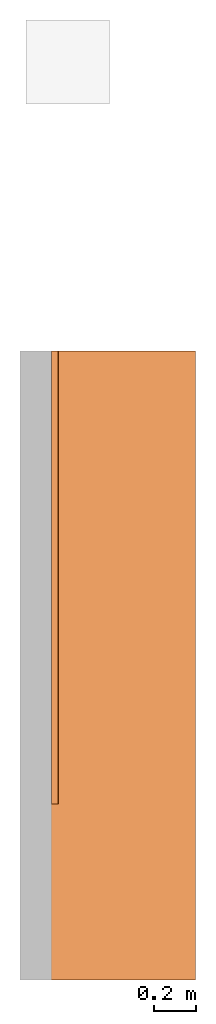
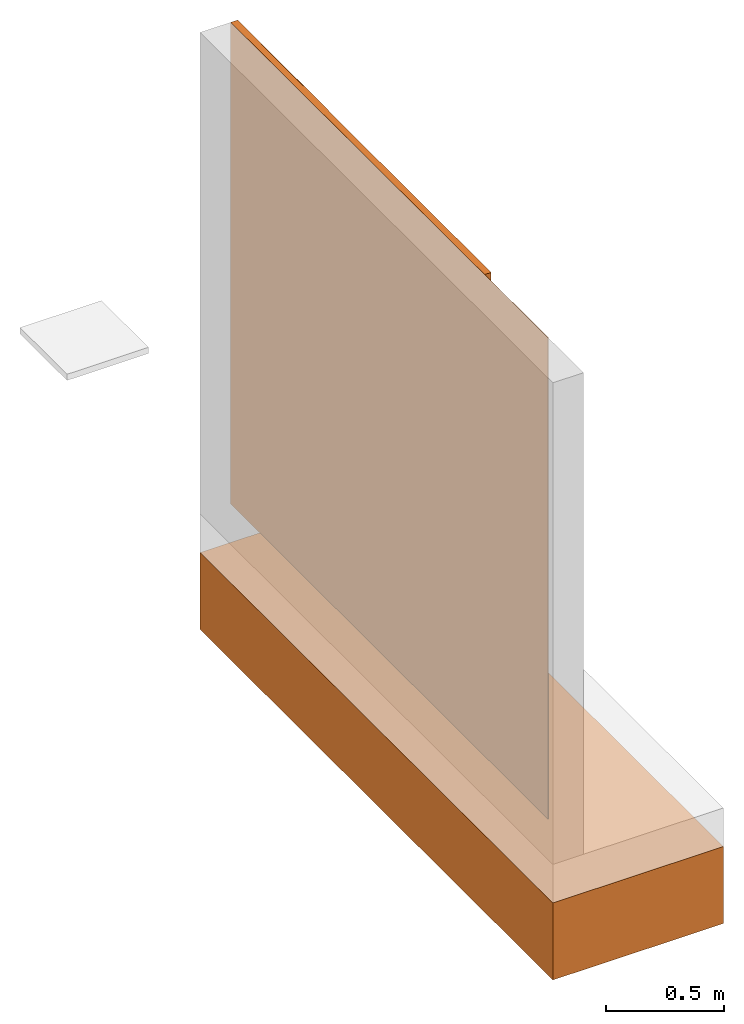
# One storey, part 2 of 2: 1 proxy.
"""IFC2X3 building model written with IfcOpenShell, lengths in metres."""

from ifc_helpers import new_model, entity, si_unit, converted_unit, derived_unit, direction, frame, frame_2d, origin, origin_2d_with_axis, place, context, subcontext, project, spatial, rectangle, extrude, source, transform, mapped, material, material_list, type_object, type_shapes, element, save


model = new_model("IFC2X3")

# Units and contexts
model_context = context("Model", 3, precision=1e-05, world=origin(), true_north=direction((6.123031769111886e-17, 1.0)))
body_context = subcontext(model_context, "Body", "Model", "MODEL_VIEW")
ifc_project = project(units=[si_unit("LENGTHUNIT", "METRE"), si_unit("AREAUNIT", "SQUARE_METRE"), si_unit("VOLUMEUNIT", "CUBIC_METRE"), converted_unit("PLANEANGLEUNIT", "DEGREE", entity("IfcRatioMeasure", 0.017453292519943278), si_unit("PLANEANGLEUNIT", "RADIAN"), dimensions=[0, 0, 0, 0, 0, 0, 0]), si_unit("MASSUNIT", "GRAM", prefix="KILO"), derived_unit("MASSDENSITYUNIT", [(si_unit("MASSUNIT", "GRAM", prefix="KILO"), 1), (si_unit("LENGTHUNIT", "METRE"), -3)]), derived_unit("IONCONCENTRATIONUNIT", [(si_unit("MASSUNIT", "GRAM", prefix="KILO"), 1), (si_unit("LENGTHUNIT", "METRE"), -3)]), derived_unit("MOMENTOFINERTIAUNIT", [(si_unit("LENGTHUNIT", "METRE"), 4)]), si_unit("TIMEUNIT", "SECOND"), si_unit("FREQUENCYUNIT", "HERTZ"), si_unit("THERMODYNAMICTEMPERATUREUNIT", "DEGREE_CELSIUS"), derived_unit("THERMALTRANSMITTANCEUNIT", [(si_unit("MASSUNIT", "GRAM", prefix="KILO"), 1), (si_unit("THERMODYNAMICTEMPERATUREUNIT", "KELVIN"), -1), (si_unit("TIMEUNIT", "SECOND"), -3)]), derived_unit("THERMALCONDUCTANCEUNIT", [(si_unit("MASSUNIT", "GRAM", prefix="KILO"), 1), (si_unit("THERMODYNAMICTEMPERATUREUNIT", "KELVIN"), -1), (si_unit("TIMEUNIT", "SECOND"), -3), (si_unit("LENGTHUNIT", "METRE"), 1)]), derived_unit("VOLUMETRICFLOWRATEUNIT", [(si_unit("LENGTHUNIT", "METRE"), 3), (si_unit("TIMEUNIT", "SECOND"), -1)]), derived_unit("MASSFLOWRATEUNIT", [(si_unit("MASSUNIT", "GRAM", prefix="KILO"), 1), (si_unit("TIMEUNIT", "SECOND"), -1)]), derived_unit("ROTATIONALFREQUENCYUNIT", [(si_unit("TIMEUNIT", "SECOND"), -1)]), si_unit("ELECTRICCURRENTUNIT", "AMPERE"), si_unit("ELECTRICVOLTAGEUNIT", "VOLT"), si_unit("POWERUNIT", "WATT"), si_unit("FORCEUNIT", "NEWTON", prefix="KILO"), si_unit("ILLUMINANCEUNIT", "LUX"), si_unit("LUMINOUSFLUXUNIT", "LUMEN"), si_unit("LUMINOUSINTENSITYUNIT", "CANDELA"), derived_unit("USERDEFINED", [(si_unit("MASSUNIT", "GRAM", prefix="KILO"), -1), (si_unit("LENGTHUNIT", "METRE"), -2), (si_unit("TIMEUNIT", "SECOND"), 3), (si_unit("LUMINOUSFLUXUNIT", "LUMEN"), 1)]), derived_unit("USERDEFINED", [(si_unit("MASSUNIT", "GRAM", prefix="KILO"), 1), (si_unit("TIMEUNIT", "SECOND"), -3), (si_unit("LENGTHUNIT", "METRE"), 3), (si_unit("ELECTRICCURRENTUNIT", "AMPERE"), -2)]), derived_unit("SOUNDPOWERUNIT", [(si_unit("MASSUNIT", "GRAM", prefix="KILO"), 1), (si_unit("TIMEUNIT", "SECOND"), -3), (si_unit("LENGTHUNIT", "METRE"), 2)]), derived_unit("SOUNDPRESSUREUNIT", [(si_unit("MASSUNIT", "GRAM", prefix="KILO"), 1), (si_unit("LENGTHUNIT", "METRE"), -1), (si_unit("TIMEUNIT", "SECOND"), -2)]), derived_unit("LINEARVELOCITYUNIT", [(si_unit("LENGTHUNIT", "METRE"), 1), (si_unit("TIMEUNIT", "SECOND"), -1)]), si_unit("PRESSUREUNIT", "PASCAL"), derived_unit("USERDEFINED", [(si_unit("MASSUNIT", "GRAM", prefix="KILO"), 1), (si_unit("LENGTHUNIT", "METRE"), -2), (si_unit("TIMEUNIT", "SECOND"), -2)]), derived_unit("LINEARFORCEUNIT", [(si_unit("MASSUNIT", "GRAM", prefix="KILO"), 1), (si_unit("TIMEUNIT", "SECOND"), -2)]), derived_unit("PLANARFORCEUNIT", [(si_unit("MASSUNIT", "GRAM", prefix="KILO"), 1), (si_unit("LENGTHUNIT", "METRE"), -1), (si_unit("TIMEUNIT", "SECOND"), -2)]), derived_unit("SPECIFICHEATCAPACITYUNIT", [(si_unit("THERMODYNAMICTEMPERATUREUNIT", "KELVIN"), -1), (si_unit("LENGTHUNIT", "METRE"), 2), (si_unit("TIMEUNIT", "SECOND"), -2)]), derived_unit("HEATINGVALUEUNIT", [(si_unit("LENGTHUNIT", "METRE"), 2), (si_unit("TIMEUNIT", "SECOND"), -2)]), derived_unit("VAPORPERMEABILITYUNIT", [(si_unit("LENGTHUNIT", "METRE"), -1), (si_unit("TIMEUNIT", "SECOND"), 1)]), derived_unit("DYNAMICVISCOSITYUNIT", [(si_unit("MASSUNIT", "GRAM", prefix="KILO"), 1), (si_unit("TIMEUNIT", "SECOND"), -1), (si_unit("LENGTHUNIT", "METRE"), -1)]), derived_unit("THERMALEXPANSIONCOEFFICIENTUNIT", [(si_unit("THERMODYNAMICTEMPERATUREUNIT", "KELVIN"), -1)]), derived_unit("MODULUSOFELASTICITYUNIT", [(si_unit("MASSUNIT", "GRAM", prefix="KILO"), 1), (si_unit("LENGTHUNIT", "METRE"), -1), (si_unit("TIMEUNIT", "SECOND"), -2)]), derived_unit("ISOTHERMALMOISTURECAPACITYUNIT", [(si_unit("LENGTHUNIT", "METRE"), 3), (si_unit("MASSUNIT", "GRAM", prefix="KILO"), -1)]), derived_unit("MOISTUREDIFFUSIVITYUNIT", [(si_unit("TIMEUNIT", "SECOND"), -1), (si_unit("LENGTHUNIT", "METRE"), 2)])], contexts=[model_context])

# Site, building, storey
site_placement = place(None, origin())
site = spatial("IfcSite", under=ifc_project, at=site_placement, Name="Default", CompositionType="ELEMENT")
building_placement = place(site_placement, origin())
building = spatial("IfcBuilding", under=site, at=building_placement, CompositionType="ELEMENT")
storey_placement = place(building_placement, frame((0.0, 0.0, -0.0025237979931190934)))
storey = spatial("IfcBuildingStorey", under=building, at=storey_placement, Name="ARQ Térreo", CompositionType="ELEMENT", Elevation=-0.0025237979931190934)

# Proxy
ifc_material_1 = material(Name="Azul, Sólido")
ifc_material_2 = material(Name="Umidade")
ifc_material_3 = material(Name="#Viaplus Reparo")
ifc_material_4 = material(Name="#reboco")
ifc_material_5 = material(Name="#chapisco")
ifc_material_6 = material(Name="#solo")
ifc_material_list = material_list([ifc_material_1, ifc_material_2, ifc_material_3, ifc_material_4, ifc_material_5, ifc_material_6])
building_element_proxy_type = type_object("IfcBuildingElementProxyType", Name="IMPER:IMPER", PredefinedType="NOTDEFINED", material=ifc_material_list)
shared_shape = source(origin(), body_context, "Body", "SweptSolid", [
    extrude(rectangle(XDim=0.7721992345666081, YDim=0.0010000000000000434, at=origin_2d_with_axis()), frame((-0.18352735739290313, 0.4882264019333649, -0.0025237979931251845), z_axis=(0.0, 0.0, 1.0), x_axis=(0.0, -1.0, 0.0)), (0.0, 0.0, 1.0), 2.4999999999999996),
    extrude(rectangle(XDim=0.001011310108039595, YDim=0.6603624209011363, at=frame_2d((0.0, 1.3877787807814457e-16), x_axis=(1.0, 0.0))), frame((-0.18453301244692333, -0.9554927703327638, -0.0025237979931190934), z_axis=(0.0, 0.0, 1.0), x_axis=(-1.0, 0.0, 0.0)), (0.0, 0.0, 1.0), 0.5990663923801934),
    extrude(rectangle(XDim=1.4996375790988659, YDim=0.0010113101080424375, at=origin_2d_with_axis()), frame((-0.18453301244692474, 0.12450722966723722, -0.0025237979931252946), z_axis=(0.0, 0.0, 1.0), x_axis=(0.0, -1.0, 0.0)), (0.0, 0.0, 1.0), 0.9999999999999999),
    extrude(rectangle(XDim=2.1600000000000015, YDim=0.03101131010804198, at=origin_2d_with_axis()), frame((-0.20054432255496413, -0.2056739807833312, -0.002523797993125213), z_axis=(0.0, 0.0, 1.0), x_axis=(0.0, -1.0, 0.0)), (0.0, 0.0, 1.0), 2.4999999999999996),
    extrude(rectangle(XDim=2.7000000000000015, YDim=0.0010000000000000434, at=origin_2d_with_axis()), frame((-0.21654997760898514, -0.4756739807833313, -0.0025237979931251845), z_axis=(0.0, 0.0, 1.0), x_axis=(0.0, -1.0, 0.0)), (0.0, 0.0, 1.0), 2.4999999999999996),
    extrude(rectangle(XDim=0.8370347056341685, YDim=3.000000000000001, at=frame_2d((0.0, -2.220446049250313e-16), x_axis=(1.0, 0.0))), frame((0.05146737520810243, -0.6256739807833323, -0.60252379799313), z_axis=(0.0, 0.0, 1.0), x_axis=(-1.0, 0.0, 0.0)), (0.0, 0.0, 1.0), 0.4),
])
type_shapes(building_element_proxy_type, [shared_shape])
proxy_placement = place(storey_placement, frame((0.0, 0.0, 0.0025237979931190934)))
element("IfcBuildingElementProxy", 1, at=proxy_placement, inside=storey, type_object=building_element_proxy_type, material=ifc_material_list, Name="IMPER:IMPER:IMPER : IMPER:IMPER", ObjectType="IMPER:IMPER:IMPER : IMPER:IMPER", context=body_context, shape_type="MappedRepresentation", body=[
    mapped(shared_shape, transform((0.0, 0.0, 0.0), scale=1.0)),
])

save(model, "model.ifc")
